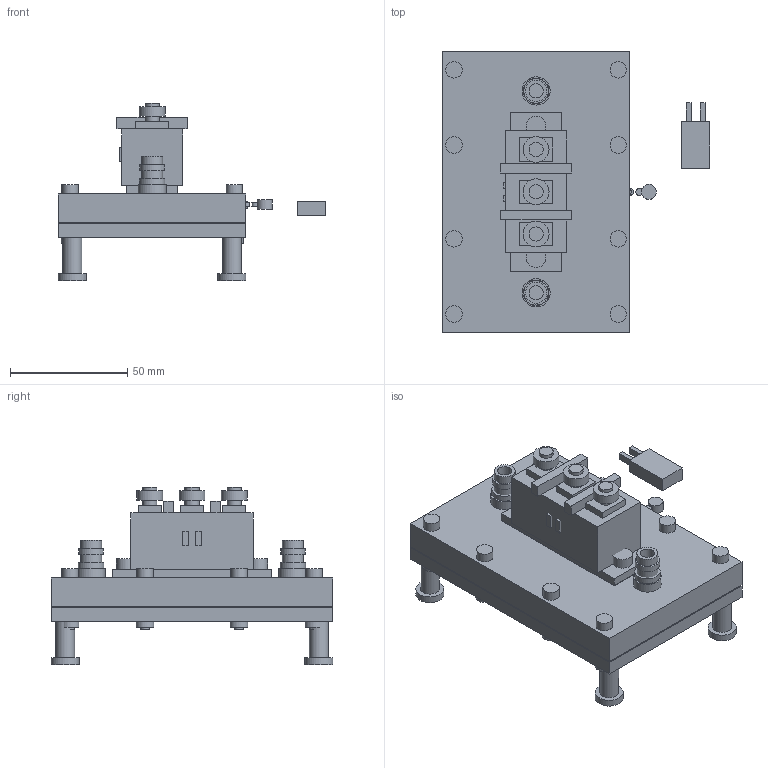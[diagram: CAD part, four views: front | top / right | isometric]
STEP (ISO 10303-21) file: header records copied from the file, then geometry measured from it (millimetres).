
FILE_DESCRIPTION(/* description */ (''),/* implementation_level */ '2;1');
FILE_NAME(/* name */ 'Thyristor_Reviewed_Final.step',/* time_stamp */ '2026-11-02T06:53:36+05:30',/* author */ (''),/* organization */ (''),/* preprocessor_version */ 'ST-DEVELOPER v20.2',/* originating_system */ 'Autodesk Translation Framework v15.17.0.0',/* authorisation */ '');
FILE_SCHEMA (('AUTOMOTIVE_DESIGN { 1 0 10303 214 3 1 1 }'));
Length unit declared in the file: centimetre
Products named in the file (17): 2026-11-02-01-28-30-721; 2026-11-02-02-59-40-221; 2026-11-02-02-59-43-084; 2026-11-02-02-59-43-519; 2026-11-02-02-59-44-128; 2026-11-02-02-59-44-602; 2026-11-02-02-59-44-987; 2026-11-02-02-59-46-241; 2026-11-02-02-59-47-034; 2026-11-02-02-59-47-858; 2026-11-02-02-59-48-789; 2026-11-02-02-59-49-745; 2026-11-02-02-59-54-096; 2026-11-02-02-59-54-882; 2026-11-02-02-59-56-951; 2026-11-02-03-00-06-820; 2026-11-02-03-00-22-757
Assembly tree (17 placements, depth 2):
  2026-11-02-01-28-30-721
    2026-11-02-02-59-40-221
    2026-11-02-02-59-43-084
    2026-11-02-02-59-43-519
    2026-11-02-02-59-44-128
    2026-11-02-02-59-44-602
    2026-11-02-02-59-44-987
    2026-11-02-02-59-46-241
    2026-11-02-02-59-47-034
    2026-11-02-02-59-47-858
    2026-11-02-02-59-48-789
    2026-11-02-02-59-49-745
    2026-11-02-02-59-54-096
    2026-11-02-02-59-54-882
    2026-11-02-02-59-56-951
    2026-11-02-03-00-06-820
    #15141
    2026-11-02-03-00-22-757
Bounding box: 114 x 120 x 75.7 mm (x, y, z)
Volume: 204280 mm3; surface area: 89912.6 mm2
Topology: 40 solids, 40 shells, 542 faces, 1156 edges, 768 vertices
Faces by surface type: plane 449, cylinder 93
Full cylindrical faces by diameter (mm): 3 x1, 3.8 x8, 4 x8, 4.2 x2, 4.4 x16, 4.8 x2, 5 x2, 5.2 x2, 6 x10, 6.4 x1, 7 x8, 7.6 x8, 8 x4, 8.4 x2, 9 x4, 10.4 x2, 10.8 x2, 11 x3, 12 x6
Entity records: 15212 total; most frequent: DIRECTION 2516, CARTESIAN_POINT 2501, ORIENTED_EDGE 2312, EDGE_CURVE 1156, LINE 950, VECTOR 950, AXIS2_PLACEMENT_3D 783, VERTEX_POINT 768
